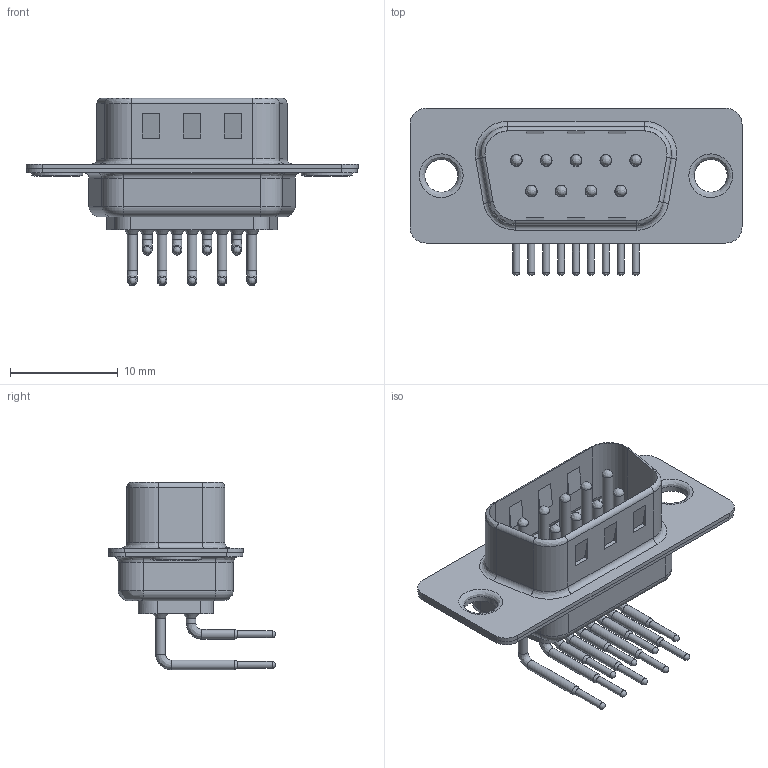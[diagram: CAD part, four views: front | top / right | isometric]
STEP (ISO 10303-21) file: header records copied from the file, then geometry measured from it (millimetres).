
FILE_DESCRIPTION (( 'STEP AP203' ), '1' );
FILE_NAME ('173-E09-113R001.STEP', '2020-01-22T21:07:39', ( '' ), ( '' ), 'SwSTEP 2.0', 'SolidWorks 2017', '' );
FILE_SCHEMA (( 'CONFIG_CONTROL_DESIGN' ));
Length unit declared in the file: inch
Products named in the file (1): 173-E09-113R001
Bounding box: 30.8 x 15.5 x 17.39 mm (x, y, z)
Surface area: 3890.3 mm2 (no closed solid volume)
Topology: 0 solids, 13 shells, 1111 faces, 3105 edges, 2013 vertices
Faces by surface type: plane 687, cylinder 341, bspline 55, cone 18, torus 10
Full cylindrical faces by diameter (mm): 0.65 x9, 0.9 x18, 1 x13, 1.1 x9, 1.5 x9, 1.7 x9, 3.05 x2, 3.8 x2, 4 x2, 4.7 x2
Entity records: 35557 total; most frequent: CARTESIAN_POINT 7621, ORIENTED_EDGE 5804, DIRECTION 5614, EDGE_CURVE 2916, LINE 2072, VECTOR 2072, VERTEX_POINT 1970, AXIS2_PLACEMENT_3D 1771
